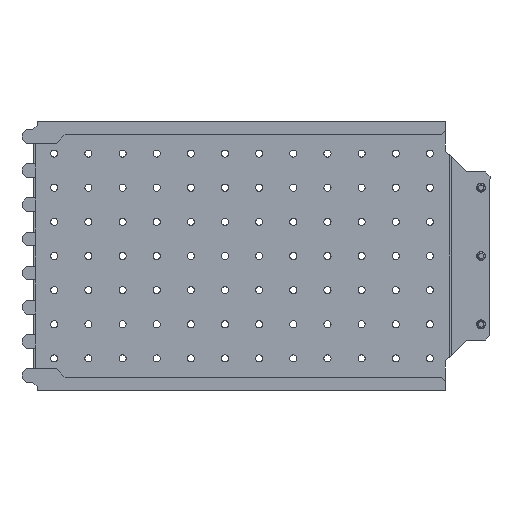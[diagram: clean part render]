
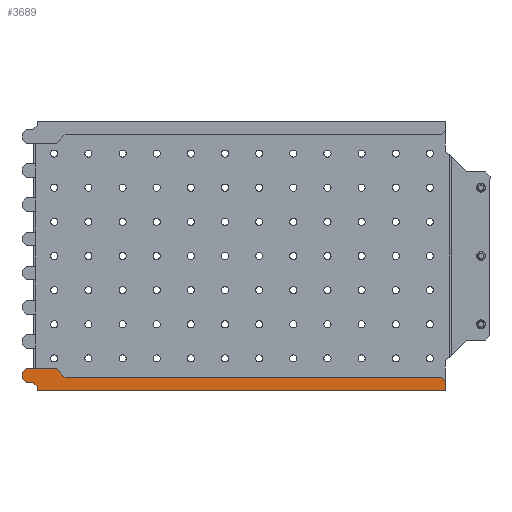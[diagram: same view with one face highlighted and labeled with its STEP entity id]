
A CAD part, front view. The second image highlights one B-rep face of the part: STEP entity #3689.
In plain terms, the highlighted planar face has unit normal (0, -1, 0) as drawn and (0, 1, 0) by its records, which use the part's own axes.
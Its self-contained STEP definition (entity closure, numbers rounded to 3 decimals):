
#7 = CARTESIAN_POINT ( 'NONE',  ( -129.625, -116.335, 85.75 ) ) ;
#332 = CARTESIAN_POINT ( 'NONE',  ( -161.125, -116.335, 86.5 ) ) ;
#341 = ORIENTED_EDGE ( 'NONE', *, *, #7904, .T. ) ;
#583 = DIRECTION ( 'NONE',  ( 1., 0., 0. ) ) ;
#606 = VERTEX_POINT ( 'NONE', #2428 ) ;
#990 = DIRECTION ( 'NONE',  ( 1., 0., 0. ) ) ;
#1243 = DIRECTION ( 'NONE',  ( 0., 0., -1. ) ) ;
#1485 = DIRECTION ( 'NONE',  ( -0.707, 0., -0.707 ) ) ;
#1584 = LINE ( 'NONE', #2742, #14403 ) ;
#1667 = DIRECTION ( 'NONE',  ( -0.707, 0., -0.707 ) ) ;
#1687 = EDGE_CURVE ( 'NONE', #9256, #14791, #9233, .T. ) ;
#1986 = LINE ( 'NONE', #9497, #13163 ) ;
#2428 = CARTESIAN_POINT ( 'NONE',  ( 148.875, -116.335, 93.25 ) ) ;
#2543 = CARTESIAN_POINT ( 'NONE',  ( 145.875, -116.335, 85.75 ) ) ;
#2625 = VECTOR ( 'NONE', #12120, 1000. ) ;
#2742 = CARTESIAN_POINT ( 'NONE',  ( 148.875, -116.335, 94.25 ) ) ;
#2817 = VERTEX_POINT ( 'NONE', #13158 ) ;
#2987 = LINE ( 'NONE', #332, #13860 ) ;
#3041 = ORIENTED_EDGE ( 'NONE', *, *, #11661, .T. ) ;
#3422 = ORIENTED_EDGE ( 'NONE', *, *, #8604, .F. ) ;
#3433 = CARTESIAN_POINT ( 'NONE',  ( -135.875, -116.335, 79.5 ) ) ;
#3689 = ADVANCED_FACE ( 'NONE', ( #4410 ), #5755, .F. ) ;
#3699 = VECTOR ( 'NONE', #14460, 1000. ) ;
#3712 = VERTEX_POINT ( 'NONE', #15950 ) ;
#3955 = VECTOR ( 'NONE', #583, 1000. ) ;
#4100 = VECTOR ( 'NONE', #13498, 1000. ) ;
#4410 = FACE_OUTER_BOUND ( 'NONE', #13287, .T. ) ;
#4528 = ORIENTED_EDGE ( 'NONE', *, *, #16087, .F. ) ;
#4641 = VECTOR ( 'NONE', #5359, 1000. ) ;
#4646 = CARTESIAN_POINT ( 'NONE',  ( 0., -116.335, 95.75 ) ) ;
#4786 = CARTESIAN_POINT ( 'NONE',  ( -150.125, -116.335, 92.5 ) ) ;
#4787 = CARTESIAN_POINT ( 'NONE',  ( -158.125, -116.335, 89.5 ) ) ;
#4957 = EDGE_CURVE ( 'NONE', #16199, #12656, #9180, .T. ) ;
#4996 = VECTOR ( 'NONE', #5327, 1000. ) ;
#5033 = VECTOR ( 'NONE', #13208, 1000. ) ;
#5060 = EDGE_CURVE ( 'NONE', #14570, #5699, #13100, .T. ) ;
#5327 = DIRECTION ( 'NONE',  ( 0.707, 0., -0.707 ) ) ;
#5359 = DIRECTION ( 'NONE',  ( 0.707, 0., 0.707 ) ) ;
#5542 = VERTEX_POINT ( 'NONE', #4787 ) ;
#5608 = LINE ( 'NONE', #13126, #3699 ) ;
#5699 = VERTEX_POINT ( 'NONE', #2543 ) ;
#5711 = VERTEX_POINT ( 'NONE', #7735 ) ;
#5755 = PLANE ( 'NONE',  #12786 ) ;
#5937 = ORIENTED_EDGE ( 'NONE', *, *, #7600, .F. ) ;
#6068 = DIRECTION ( 'NONE',  ( 0., -1., 0. ) ) ;
#6396 = CARTESIAN_POINT ( 'NONE',  ( -158.125, -116.335, 79.5 ) ) ;
#6580 = ORIENTED_EDGE ( 'NONE', *, *, #1687, .F. ) ;
#6605 = CARTESIAN_POINT ( 'NONE',  ( -153.125, -116.335, 89.5 ) ) ;
#6676 = DIRECTION ( 'NONE',  ( 0., 0., 1. ) ) ;
#6733 = CARTESIAN_POINT ( 'NONE',  ( -153.125, -116.335, 89.5 ) ) ;
#6941 = CARTESIAN_POINT ( 'NONE',  ( 148.875, -116.335, 88.75 ) ) ;
#7018 = DIRECTION ( 'NONE',  ( 0., 0., -1. ) ) ;
#7093 = ORIENTED_EDGE ( 'NONE', *, *, #13481, .F. ) ;
#7573 = ORIENTED_EDGE ( 'NONE', *, *, #16067, .F. ) ;
#7600 = EDGE_CURVE ( 'NONE', #5699, #5711, #15801, .T. ) ;
#7735 = CARTESIAN_POINT ( 'NONE',  ( 148.875, -116.335, 88.75 ) ) ;
#7904 = EDGE_CURVE ( 'NONE', #3712, #11839, #9678, .T. ) ;
#8222 = LINE ( 'NONE', #15586, #15972 ) ;
#8245 = DIRECTION ( 'NONE',  ( 0., 0., 1. ) ) ;
#8584 = LINE ( 'NONE', #4646, #11444 ) ;
#8586 = EDGE_CURVE ( 'NONE', #5542, #14753, #2987, .T. ) ;
#8604 = EDGE_CURVE ( 'NONE', #5711, #606, #1584, .T. ) ;
#9180 = LINE ( 'NONE', #12849, #4996 ) ;
#9233 = LINE ( 'NONE', #6733, #10961 ) ;
#9256 = VERTEX_POINT ( 'NONE', #4786 ) ;
#9273 = ORIENTED_EDGE ( 'NONE', *, *, #15662, .F. ) ;
#9480 = DIRECTION ( 'NONE',  ( -1., 0., 0. ) ) ;
#9497 = CARTESIAN_POINT ( 'NONE',  ( 148.875, -116.335, 0. ) ) ;
#9678 = LINE ( 'NONE', #16260, #4100 ) ;
#10598 = CARTESIAN_POINT ( 'NONE',  ( 145.875, -116.335, 85.75 ) ) ;
#10863 = CARTESIAN_POINT ( 'NONE',  ( 0., -116.335, 0. ) ) ;
#10871 = LINE ( 'NONE', #16130, #2625 ) ;
#10881 = ORIENTED_EDGE ( 'NONE', *, *, #8586, .F. ) ;
#10961 = VECTOR ( 'NONE', #1485, 1000. ) ;
#11043 = LINE ( 'NONE', #12677, #12867 ) ;
#11444 = VECTOR ( 'NONE', #990, 1000. ) ;
#11628 = LINE ( 'NONE', #15638, #5033 ) ;
#11661 = EDGE_CURVE ( 'NONE', #11839, #2817, #8584, .T. ) ;
#11839 = VERTEX_POINT ( 'NONE', #15832 ) ;
#12120 = DIRECTION ( 'NONE',  ( 0.707, 0., 0.707 ) ) ;
#12488 = EDGE_CURVE ( 'NONE', #606, #2817, #1986, .T. ) ;
#12656 = VERTEX_POINT ( 'NONE', #6396 ) ;
#12677 = CARTESIAN_POINT ( 'NONE',  ( -161.125, -116.335, 82.5 ) ) ;
#12786 = AXIS2_PLACEMENT_3D ( 'NONE', #10863, #6068, #7018 ) ;
#12849 = CARTESIAN_POINT ( 'NONE',  ( -158.125, -116.335, 79.5 ) ) ;
#12867 = VECTOR ( 'NONE', #1243, 1000. ) ;
#13100 = LINE ( 'NONE', #10598, #3955 ) ;
#13126 = CARTESIAN_POINT ( 'NONE',  ( -150.125, -116.335, 92.5 ) ) ;
#13158 = CARTESIAN_POINT ( 'NONE',  ( 148.875, -116.335, 95.75 ) ) ;
#13163 = VECTOR ( 'NONE', #8245, 1000. ) ;
#13208 = DIRECTION ( 'NONE',  ( 1., 0., 0. ) ) ;
#13287 = EDGE_LOOP ( 'NONE', ( #4528, #341, #3041, #13672, #3422, #5937, #15675, #15942, #7573, #13750, #7093, #10881, #9273, #6580 ) ) ;
#13481 = EDGE_CURVE ( 'NONE', #14753, #16199, #11043, .T. ) ;
#13498 = DIRECTION ( 'NONE',  ( 0., 0., 1. ) ) ;
#13527 = CARTESIAN_POINT ( 'NONE',  ( -161.125, -116.335, 82.5 ) ) ;
#13672 = ORIENTED_EDGE ( 'NONE', *, *, #12488, .F. ) ;
#13750 = ORIENTED_EDGE ( 'NONE', *, *, #4957, .F. ) ;
#13860 = VECTOR ( 'NONE', #1667, 1000. ) ;
#14403 = VECTOR ( 'NONE', #6676, 1000. ) ;
#14460 = DIRECTION ( 'NONE',  ( 0., 0., -1. ) ) ;
#14570 = VERTEX_POINT ( 'NONE', #7 ) ;
#14753 = VERTEX_POINT ( 'NONE', #15626 ) ;
#14791 = VERTEX_POINT ( 'NONE', #6605 ) ;
#15546 = EDGE_CURVE ( 'NONE', #15773, #14570, #10871, .T. ) ;
#15586 = CARTESIAN_POINT ( 'NONE',  ( -158.125, -116.335, 89.5 ) ) ;
#15626 = CARTESIAN_POINT ( 'NONE',  ( -161.125, -116.335, 86.5 ) ) ;
#15638 = CARTESIAN_POINT ( 'NONE',  ( -135.875, -116.335, 79.5 ) ) ;
#15662 = EDGE_CURVE ( 'NONE', #14791, #5542, #8222, .T. ) ;
#15675 = ORIENTED_EDGE ( 'NONE', *, *, #5060, .F. ) ;
#15773 = VERTEX_POINT ( 'NONE', #3433 ) ;
#15801 = LINE ( 'NONE', #6941, #4641 ) ;
#15832 = CARTESIAN_POINT ( 'NONE',  ( -150.125, -116.335, 95.75 ) ) ;
#15942 = ORIENTED_EDGE ( 'NONE', *, *, #15546, .F. ) ;
#15950 = CARTESIAN_POINT ( 'NONE',  ( -150.125, -116.335, 93.25 ) ) ;
#15972 = VECTOR ( 'NONE', #9480, 1000. ) ;
#16067 = EDGE_CURVE ( 'NONE', #12656, #15773, #11628, .T. ) ;
#16087 = EDGE_CURVE ( 'NONE', #3712, #9256, #5608, .T. ) ;
#16130 = CARTESIAN_POINT ( 'NONE',  ( -129.625, -116.335, 85.75 ) ) ;
#16199 = VERTEX_POINT ( 'NONE', #13527 ) ;
#16260 = CARTESIAN_POINT ( 'NONE',  ( -150.125, -116.335, 93.25 ) ) ;
